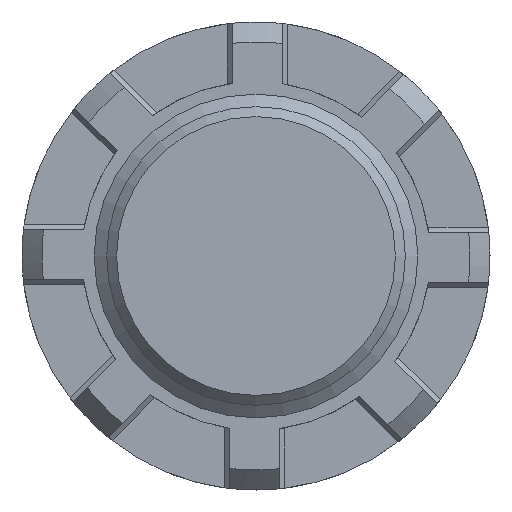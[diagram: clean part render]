
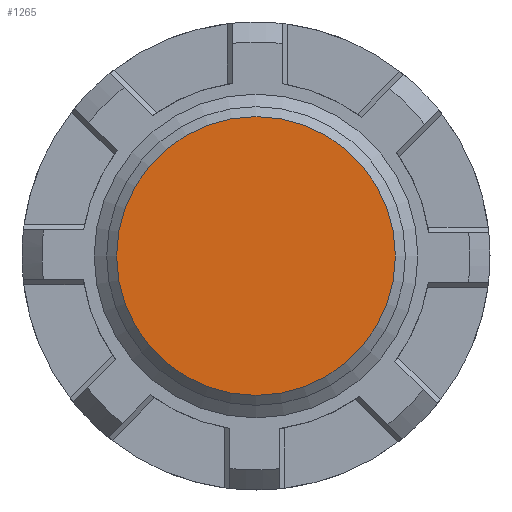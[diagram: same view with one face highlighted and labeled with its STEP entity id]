
A CAD part, front view. The second image highlights one B-rep face of the part: STEP entity #1265.
In plain terms, the highlighted planar face has unit normal (0, -1, 0).
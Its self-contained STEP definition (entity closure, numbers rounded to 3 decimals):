
#83=CIRCLE('',#1430,2.8);
#172=FACE_OUTER_BOUND('',#241,.T.);
#241=EDGE_LOOP('',(#1068));
#572=VERTEX_POINT('',#2236);
#756=EDGE_CURVE('',#572,#572,#83,.T.);
#1068=ORIENTED_EDGE('',*,*,#756,.F.);
#1206=PLANE('',#1433);
#1265=ADVANCED_FACE('',(#172),#1206,.T.);
#1430=AXIS2_PLACEMENT_3D('',#2237,#1801,#1802);
#1433=AXIS2_PLACEMENT_3D('',#2243,#1808,#1809);
#1801=DIRECTION('center_axis',(0.,1.,0.));
#1802=DIRECTION('ref_axis',(-1.,0.,0.));
#1808=DIRECTION('center_axis',(0.,-1.,0.));
#1809=DIRECTION('ref_axis',(0.,0.,-1.));
#2236=CARTESIAN_POINT('',(2.8,0.,0.));
#2237=CARTESIAN_POINT('Origin',(0.,0.,0.));
#2243=CARTESIAN_POINT('Origin',(0.,0.,0.));
